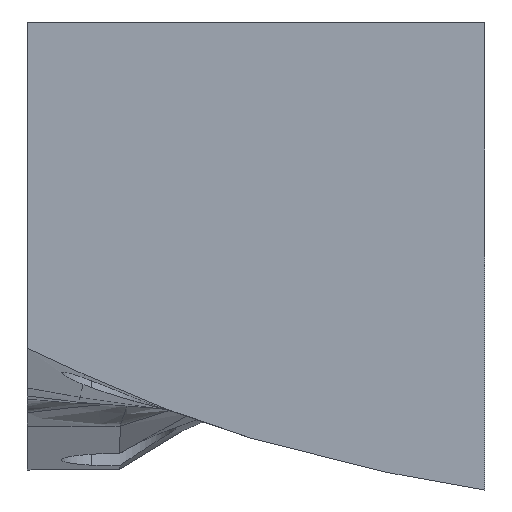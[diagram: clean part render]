
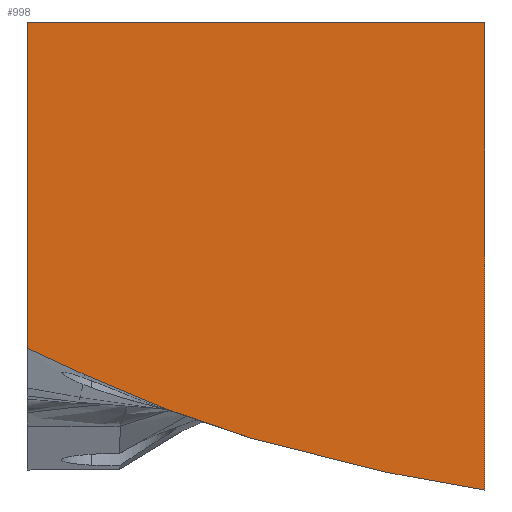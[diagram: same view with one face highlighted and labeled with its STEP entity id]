
A CAD part, left-side view. The second image highlights one B-rep face of the part: STEP entity #998.
In plain terms, the highlighted planar face has unit normal (-1, 0, 0).
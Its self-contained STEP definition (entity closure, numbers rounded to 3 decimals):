
#947=AXIS2_PLACEMENT_3D('Plane Axis2P3D',#944,#945,#946) ;
#224=CARTESIAN_POINT('Vertex',(-75.,30.,32.)) ;
#227=CARTESIAN_POINT('Line Origine',(-75.,0.,32.)) ;
#231=CARTESIAN_POINT('Vertex',(-75.,-30.,32.)) ;
#920=CARTESIAN_POINT('Vertex',(-75.,30.,-10.814)) ;
#923=CARTESIAN_POINT('Line Origine',(-75.,30.,10.593)) ;
#944=CARTESIAN_POINT('Axis2P3D Location',(-75.,-30.,0.)) ;
#950=CARTESIAN_POINT('Control Point',(-75.,30.,-10.814)) ;
#951=CARTESIAN_POINT('Control Point',(-75.,28.492,-11.525)) ;
#952=CARTESIAN_POINT('Control Point',(-75.,26.981,-12.23)) ;
#953=CARTESIAN_POINT('Control Point',(-75.,25.469,-12.93)) ;
#954=CARTESIAN_POINT('Control Point',(-75.,23.955,-13.624)) ;
#955=CARTESIAN_POINT('Control Point',(-75.,22.439,-14.313)) ;
#956=CARTESIAN_POINT('Vertex',(-75.,22.439,-14.313)) ;
#960=CARTESIAN_POINT('Control Point',(-75.,-17.183,-27.12)) ;
#961=CARTESIAN_POINT('Control Point',(-75.,-15.577,-26.804)) ;
#962=CARTESIAN_POINT('Control Point',(-75.,-13.973,-26.469)) ;
#963=CARTESIAN_POINT('Control Point',(-75.,-12.368,-26.114)) ;
#964=CARTESIAN_POINT('Control Point',(-75.,-6.728,-24.798)) ;
#965=CARTESIAN_POINT('Control Point',(-75.,-1.13,-23.245)) ;
#966=CARTESIAN_POINT('Control Point',(-75.,2.853,-22.012)) ;
#967=CARTESIAN_POINT('Control Point',(-75.,9.2,-19.84)) ;
#968=CARTESIAN_POINT('Control Point',(-75.,15.455,-17.365)) ;
#969=CARTESIAN_POINT('Control Point',(-75.,17.799,-16.39)) ;
#970=CARTESIAN_POINT('Control Point',(-75.,20.127,-15.372)) ;
#971=CARTESIAN_POINT('Control Point',(-75.,22.439,-14.313)) ;
#972=CARTESIAN_POINT('Vertex',(-75.,-17.183,-27.12)) ;
#976=CARTESIAN_POINT('Control Point',(-75.,-30.,-29.424)) ;
#977=CARTESIAN_POINT('Control Point',(-75.,-27.434,-29.001)) ;
#978=CARTESIAN_POINT('Control Point',(-75.,-24.87,-28.558)) ;
#979=CARTESIAN_POINT('Control Point',(-75.,-22.306,-28.095)) ;
#980=CARTESIAN_POINT('Control Point',(-75.,-19.744,-27.616)) ;
#981=CARTESIAN_POINT('Control Point',(-75.,-17.183,-27.12)) ;
#982=CARTESIAN_POINT('Vertex',(-75.,-30.,-29.424)) ;
#985=CARTESIAN_POINT('Line Origine',(-75.,-30.,1.288)) ;
#228=DIRECTION('Vector Direction',(0.,1.,0.)) ;
#924=DIRECTION('Vector Direction',(0.,0.,1.)) ;
#945=DIRECTION('Axis2P3D Direction',(1.,0.,0.)) ;
#946=DIRECTION('Axis2P3D XDirection',(0.,1.,0.)) ;
#986=DIRECTION('Vector Direction',(0.,0.,1.)) ;
#229=VECTOR('Line Direction',#228,1.) ;
#925=VECTOR('Line Direction',#924,1.) ;
#987=VECTOR('Line Direction',#986,1.) ;
#991=ORIENTED_EDGE('',*,*,#958,.T.) ;
#992=ORIENTED_EDGE('',*,*,#974,.F.) ;
#993=ORIENTED_EDGE('',*,*,#984,.F.) ;
#994=ORIENTED_EDGE('',*,*,#989,.T.) ;
#995=ORIENTED_EDGE('',*,*,#233,.F.) ;
#996=ORIENTED_EDGE('',*,*,#927,.F.) ;
#998=ADVANCED_FACE('29_12_2022',(#997),#948,.F.) ;
#949=B_SPLINE_CURVE_WITH_KNOTS('',5,(#950,#951,#952,#953,#954,#955),.UNSPECIFIED.,.F.,.U.,(6,6),(0.,11.933),.UNSPECIFIED.) ;
#959=B_SPLINE_CURVE_WITH_KNOTS('',5,(#960,#961,#962,#963,#964,#965,#966,#967,#968,#969,#970,#971),.UNSPECIFIED.,.F.,.U.,(6,3,3,6),(0.063,11.935,41.954,60.105),.UNSPECIFIED.) ;
#975=B_SPLINE_CURVE_WITH_KNOTS('',5,(#976,#977,#978,#979,#980,#981),.UNSPECIFIED.,.F.,.U.,(6,6),(0.,18.694),.UNSPECIFIED.) ;
#233=EDGE_CURVE('',#225,#232,#230,.F.) ;
#927=EDGE_CURVE('',#921,#225,#926,.T.) ;
#958=EDGE_CURVE('',#921,#957,#949,.T.) ;
#974=EDGE_CURVE('',#973,#957,#959,.T.) ;
#984=EDGE_CURVE('',#983,#973,#975,.T.) ;
#989=EDGE_CURVE('',#983,#232,#988,.T.) ;
#990=EDGE_LOOP('',(#991,#992,#993,#994,#995,#996)) ;
#997=FACE_OUTER_BOUND('',#990,.T.) ;
#230=LINE('Line',#227,#229) ;
#926=LINE('Line',#923,#925) ;
#988=LINE('Line',#985,#987) ;
#948=PLANE('',#947) ;
#225=VERTEX_POINT('',#224) ;
#232=VERTEX_POINT('',#231) ;
#921=VERTEX_POINT('',#920) ;
#957=VERTEX_POINT('',#956) ;
#973=VERTEX_POINT('',#972) ;
#983=VERTEX_POINT('',#982) ;
